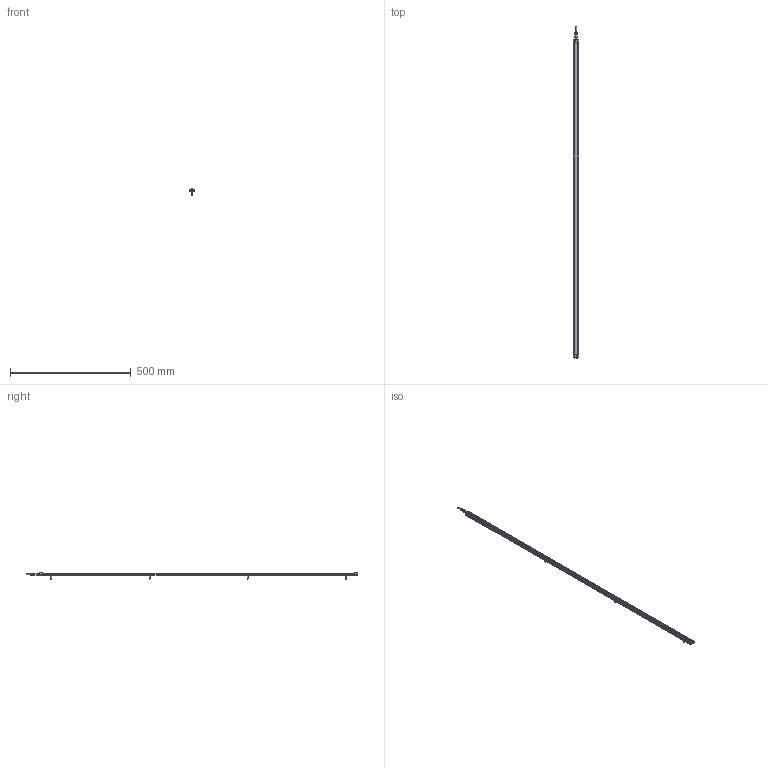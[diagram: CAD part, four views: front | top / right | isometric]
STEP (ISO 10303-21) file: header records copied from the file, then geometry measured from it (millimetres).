
FILE_DESCRIPTION (( 'STEP AP214' ), '1' );
FILE_NAME ('ILGA-B-K2-1320mm.STEP', '2026-04-24T22:56:03', ( '' ), ( '' ), 'SwSTEP 2.0', 'SolidWorks 2025', '' );
FILE_SCHEMA (( 'AUTOMOTIVE_DESIGN' ));
Length unit declared in the file: millimetre
Products named in the file (1): ILGA-B-K2-1320mm
Bounding box: 22.4 x 1374.5 x 25.7 mm (x, y, z)
Surface area: 181973.6 mm2 (no closed solid volume)
Topology: 0 solids, 17 shells, 975 faces, 2532 edges, 1571 vertices
Faces by surface type: cylinder 403, plane 364, cone 86, bspline 56, torus 50, sphere 16
Entity records: 42888 total; most frequent: CARTESIAN_POINT 8692, ORIENTED_EDGE 4945, DIRECTION 4896, EDGE_CURVE 2480, AXIS2_PLACEMENT_3D 1879, VERTEX_POINT 1571, LINE 1138, VECTOR 1138
